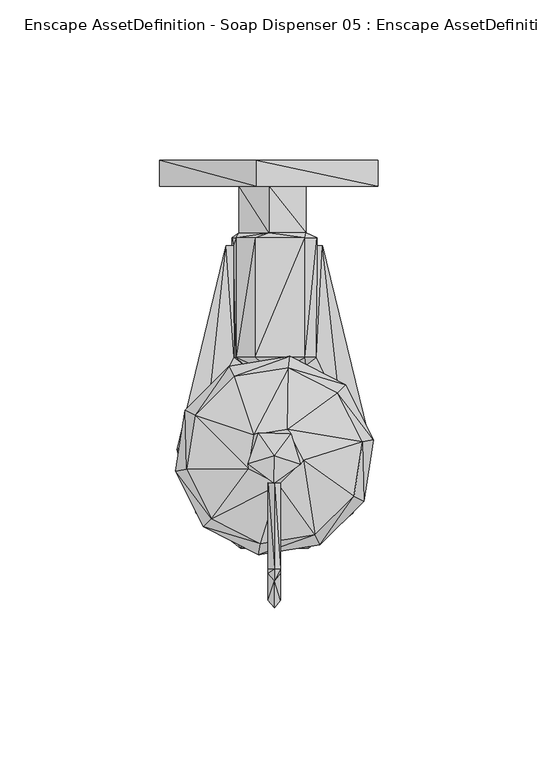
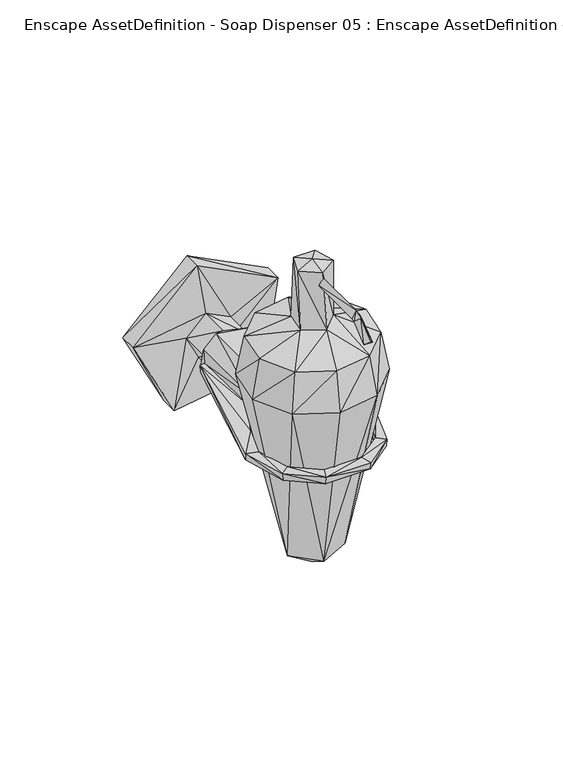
"""IFC4 building model written with IfcOpenShell, lengths in millimetres: geographic element geometry, Enscape AssetDefinition - Soap Dispenser 05 : Enscape AssetDefinition - Soap Dispenser 05."""

from ifc_helpers import new_model, si_unit, origin, place, context, project, spatial, faceted_brep, source, transform, mapped, element, save


def enscape_assetdefinition_soap_dispenser_05_enscape_c9e8c837(model_context):
    return source(origin(), model_context, "Body", "Brep", [
        faceted_brep([(30.968314, -87.4636546, 32.439895), (11.660275, -98.3123332, -53.3648916), (9.2531256, -83.1131339, -53.3648916), (27.9359631, -106.6058129, 32.439895), (-0.0035675, -92.3698246, -61.9500093), (14.2324204, -120.3093529, 32.439895), (-2.052187, -105.2992195, -53.3648916), (27.5105443, -88.0112648, 50.9202816), (24.8171035, -105.0165072, 50.9202816), (12.6431137, -117.1904951, 50.9202816), (-4.9097301, -123.3417094, 32.439895), (-22.1771766, -114.5425439, 32.439895), (-12.9338615, -94.4175497, -53.3648916), (-4.362124, -119.8839322, 50.9202816), (9.0444274, -93.8021615, 58.1274629), (1.4287716, -101.4178172, 58.1274629), (4.1552107, -84.2065588, 58.1274629), (8.1311557, -95.1693952, 86.5450352), (-0.1542931, -100.970991, 86.5450352), (-19.7022445, -112.06761, 50.9202816), (-8.166831, -96.5286046, 58.1274629), (-8.231937, -94.8839933, 86.5450352), (-30.975448, -97.2750932, 32.439895), (-27.5176801, -96.727483, 50.9202816), (-27.9439911, -78.1329423, 32.439895), (-24.8251297, -79.722248, 50.9202816), (-14.2404474, -64.4294024, 32.439895), (-5.9469724, -80.7050839, -53.3648916), (-12.6511399, -67.5482601, 50.9202816), (-6.4820931, -85.8912915, 58.1274629), (4.9017034, -61.3979399, 32.439895), (22.1691504, -70.1962113, 32.439895), (4.3540969, -64.8548156, 50.9202816), (19.6942165, -72.6711452, 50.9202816), (5.1737232, -85.4970887, 86.5450352), (-0.0035675, -92.3680365, 88.3983374), (-4.9391617, -85.3204951, 86.5450352)], [[[0, 1, 2]], [[3, 1, 0]], [[4, 2, 1]], [[5, 1, 3]], [[5, 6, 1]], [[4, 1, 6]], [[3, 7, 8]], [[7, 3, 0]], [[8, 5, 3]], [[5, 8, 9]], [[10, 6, 5]], [[9, 10, 5]], [[11, 6, 10]], [[11, 12, 6]], [[4, 6, 12]], [[10, 9, 13]], [[13, 11, 10]], [[9, 14, 15]], [[14, 9, 8]], [[13, 9, 15]], [[8, 7, 14]], [[7, 16, 14]], [[16, 17, 14]], [[18, 14, 17]], [[14, 18, 15]], [[19, 15, 20]], [[15, 19, 13]], [[21, 15, 18]], [[15, 21, 20]], [[11, 13, 19]], [[22, 19, 23]], [[19, 22, 11]], [[20, 23, 19]], [[24, 23, 25]], [[23, 24, 22]], [[20, 25, 23]], [[22, 12, 11]], [[24, 12, 22]], [[26, 27, 24]], [[24, 27, 12]], [[25, 26, 24]], [[26, 25, 28]], [[28, 25, 29]], [[25, 20, 29]], [[30, 27, 26]], [[28, 30, 26]], [[30, 2, 27]], [[4, 27, 2]], [[4, 12, 27]], [[31, 2, 30]], [[32, 31, 30]], [[30, 28, 32]], [[29, 32, 28]], [[31, 32, 33]], [[33, 32, 16]], [[32, 29, 16]], [[0, 2, 31]], [[33, 0, 31]], [[0, 33, 7]], [[16, 7, 33]], [[17, 16, 34]], [[29, 34, 16]], [[35, 17, 34]], [[34, 29, 36]], [[35, 34, 36]], [[35, 18, 17]], [[35, 21, 18]], [[35, 36, 21]], [[36, 20, 21]], [[20, 36, 29]]]),
        faceted_brep([(25.6590266, -8.2408553, -25.6581344), (25.6590266, 0.0, -25.6581344), (32.3319808, 0.0, 16.4745748), (-5.6767366, 0.0, 35.8405858), (-16.4736845, -8.2408553, -32.3319808), (-16.4736845, 0.0, -32.3319808), (32.3319808, -8.2408553, 16.4745748), (7.8680553, -8.2408553, -7.867163), (-5.0515374, -8.2408553, -9.9139996), (-10.9895915, -8.2408553, 1.7409252), (-35.8405858, -8.2408553, 5.6767366), (-35.8405858, 0.0, 5.6767366), (-1.7409252, -8.2408553, 10.9904828), (-5.6767366, -8.2408553, 35.8405858), (-1.7409252, -22.6766206, 10.9904828), (-10.9895915, -22.6766206, 1.7409252), (-5.0515374, -22.6766206, -9.9139996), (-11.9768884, -24.3301429, 6.103049), (-9.5055234, -24.3301429, -9.5046321), (-13.2772317, -24.3301429, -2.1021315), (7.8680553, -22.6766206, -7.867163), (6.103049, -24.3301429, -11.9768884), (11.9777797, -24.3301429, -6.1021573), (11.9777797, -61.5888014, -6.1021573), (6.103049, -61.5888014, -11.9768884), (13.2772317, -24.3301429, 2.1030235), (13.1175872, -26.6552418, 1.0943214), (12.5967357, -26.8773194, -2.1913184), (0.0, -67.129083, -2.2573166), (12.5869252, -61.5888014, -2.2519652), (-9.5055234, -61.5888014, -9.5046321), (-13.2005308, -61.5888014, -2.2519652), (-13.2772317, -26.8791001, -2.1021315), (-20.6164084, -77.6022822, -2.2573166), (-15.0779104, -27.1065272, -2.1913184), (-11.9340783, -70.1676682, -2.2573166), (-15.0645338, -26.8309414, 1.0943214), (-12.7706509, -26.6231354, 1.0943214), (-12.6814637, -61.5888014, 1.6588735), (-11.9768884, -61.5888014, 6.103049), (-6.103049, -24.3301429, 11.9777797), (0.0, -67.1192706, 1.4689057), (-6.103049, -61.5888014, 11.9777797), (-9.3592573, -64.1324073, 1.6669004), (-20.6244346, -77.5960386, 1.5634437), (-8.912432, -68.3348849, 1.5634437), (-25.4940316, -92.5811976, 1.5634437), (-25.4833288, -92.5811976, -2.2573166), (-30.4438975, -90.5352533, 1.1130506), (-30.2958451, -90.1472941, -2.214507), (-24.281092, -110.2223322, -2.1913184), (-24.5183278, -110.3944629, 1.0943214), (-10.4919281, -121.125415, -2.1913184), (-20.6164084, -107.5601056, -2.2573166), (-20.6244346, -107.5654626, 1.5634437), (-10.5944946, -121.4045659, 1.0943214), (10.4919281, -121.125415, -2.1913184), (-8.9088641, -116.8176904, -2.2573166), (-8.912432, -116.8266088, 1.5634437), (8.9088641, -116.8176904, -2.2573166), (8.912432, -116.8266088, 1.5634437), (20.6164084, -107.5601056, -2.2573166), (24.281092, -110.2223322, -2.1913184), (20.6244346, -107.5654626, 1.5634437), (24.5183278, -110.3944629, 1.0943214), (10.5944946, -121.4045659, 1.0943214), (25.4940316, -92.5811976, 1.5634437), (30.4438975, -90.5352533, 1.1130506), (30.2958451, -90.1472941, -2.214507), (20.6244346, -77.5960386, 1.5634437), (15.0645338, -26.8309414, 1.0943214), (15.0779104, -27.1065272, -2.1913184), (25.4833288, -92.5811976, -2.2573166), (20.6164084, -77.6022822, -2.2573166), (13.2067734, -61.5888014, 1.6588735), (9.8194601, -64.1324073, 1.6669004), (9.5055234, -61.5888014, 9.5055234), (9.9139996, -22.6766206, 5.0515374), (9.5055234, -24.3301429, 9.5055234), (8.912432, -68.3348849, 1.5634437), (11.9340783, -70.1676682, -2.2573166), (9.9139996, -8.2408553, 5.0515374)], [[[0, 1, 2]], [[3, 2, 1]], [[4, 5, 1]], [[3, 1, 5]], [[4, 1, 0]], [[6, 2, 3]], [[0, 2, 6]], [[7, 0, 6]], [[8, 4, 0]], [[8, 0, 7]], [[9, 10, 4]], [[9, 4, 8]], [[10, 5, 4]], [[10, 11, 5]], [[3, 5, 11]], [[12, 13, 10]], [[13, 11, 10]], [[12, 10, 9]], [[14, 12, 9]], [[15, 9, 8]], [[14, 9, 15]], [[16, 8, 7]], [[15, 8, 16]], [[14, 15, 17]], [[15, 16, 18]], [[17, 15, 19]], [[15, 18, 19]], [[16, 20, 21]], [[16, 7, 20]], [[16, 21, 18]], [[21, 20, 22]], [[21, 22, 23]], [[18, 21, 24]], [[21, 23, 24]], [[22, 25, 26]], [[22, 27, 23]], [[20, 25, 22]], [[22, 26, 27]], [[28, 23, 29]], [[28, 24, 23]], [[23, 27, 29]], [[30, 24, 28]], [[18, 24, 30]], [[28, 31, 30]], [[31, 18, 30]], [[19, 18, 32]], [[32, 18, 31]], [[31, 33, 34]], [[31, 35, 33]], [[28, 35, 31]], [[31, 34, 32]], [[34, 36, 32]], [[37, 19, 32]], [[32, 36, 37]], [[17, 19, 37]], [[37, 36, 38]], [[17, 37, 39]], [[39, 37, 38]], [[40, 17, 39]], [[14, 17, 40]], [[41, 42, 39]], [[41, 39, 43]], [[40, 39, 42]], [[43, 39, 38]], [[44, 43, 38]], [[38, 36, 44]], [[45, 43, 44]], [[43, 45, 41]], [[44, 33, 45]], [[46, 47, 44]], [[36, 48, 44]], [[44, 48, 46]], [[44, 47, 33]], [[45, 35, 28]], [[45, 28, 41]], [[45, 33, 35]], [[49, 33, 47]], [[49, 34, 33]], [[50, 49, 47]], [[49, 48, 36]], [[50, 48, 49]], [[49, 36, 34]], [[46, 48, 51]], [[51, 48, 50]], [[52, 50, 53]], [[50, 47, 53]], [[52, 51, 50]], [[54, 51, 55]], [[55, 51, 52]], [[46, 51, 54]], [[56, 52, 57]], [[52, 53, 57]], [[56, 55, 52]], [[58, 57, 54]], [[59, 57, 58]], [[56, 57, 59]], [[54, 57, 53]], [[54, 53, 46]], [[54, 55, 58]], [[46, 53, 47]], [[60, 58, 55]], [[59, 58, 60]], [[61, 62, 59]], [[63, 61, 59]], [[59, 62, 56]], [[63, 59, 60]], [[63, 60, 64]], [[60, 55, 65]], [[64, 60, 65]], [[66, 63, 67]], [[67, 63, 64]], [[66, 61, 63]], [[67, 64, 62]], [[64, 65, 56]], [[64, 56, 62]], [[65, 55, 56]], [[61, 68, 62]], [[67, 62, 68]], [[69, 66, 67]], [[70, 69, 67]], [[70, 67, 71]], [[71, 67, 68]], [[66, 72, 61]], [[69, 72, 66]], [[72, 68, 61]], [[69, 73, 72]], [[72, 73, 68]], [[71, 68, 73]], [[26, 70, 71]], [[27, 71, 29]], [[26, 71, 27]], [[29, 71, 73]], [[74, 69, 70]], [[74, 70, 26]], [[26, 25, 74]], [[75, 74, 76]], [[75, 69, 74]], [[25, 76, 74]], [[20, 77, 25]], [[25, 77, 78]], [[25, 78, 76]], [[41, 76, 42]], [[75, 76, 41]], [[78, 42, 76]], [[69, 75, 79]], [[79, 75, 41]], [[79, 80, 69]], [[69, 80, 73]], [[41, 80, 79]], [[41, 28, 80]], [[80, 29, 73]], [[80, 28, 29]], [[77, 14, 78]], [[78, 40, 42]], [[78, 14, 40]], [[77, 12, 14]], [[77, 81, 12]], [[81, 13, 12]], [[20, 81, 77]], [[20, 7, 81]], [[81, 6, 13]], [[7, 6, 81]], [[13, 3, 11]], [[6, 3, 13]]]),
        faceted_brep([(1.930893, -127.8331578, 80.8237046), (-1.930893, -100.939773, 80.8237046), (1.930893, -101.0066718, 80.8237046), (-1.930893, -127.7653575, 80.8237046), (0.0, -127.7992576, 84.1682032), (0.0, -100.9736657, 84.1682032), (1.930893, -129.1763037, 80.2127793), (-1.930893, -129.1281432, 80.2600458), (0.0, -131.5165609, 82.6011896), (-1.930893, -137.6106888, 73.801145), (1.930893, -137.6588494, 73.753871), (0.0, -140.0000006, 76.1422962)], [[[0, 1, 2]], [[1, 0, 3]], [[4, 1, 3]], [[1, 4, 5]], [[0, 5, 4]], [[5, 0, 2]], [[6, 3, 0]], [[3, 6, 7]], [[7, 4, 3]], [[4, 7, 8]], [[8, 0, 4]], [[0, 8, 6]], [[6, 9, 7]], [[9, 6, 10]], [[8, 10, 6]], [[10, 8, 11]], [[8, 9, 11]], [[9, 8, 7]], [[9, 10, 11]], [[2, 1, 5]]]),
    ])


if __name__ == "__main__":
    model = new_model("IFC4")
    model_context = context("Model", 3, world=origin())
    ifc_project = project(units=[si_unit("LENGTHUNIT", "METRE", prefix="MILLI")], contexts=[model_context])
    site = spatial("IfcSite", under=ifc_project)
    building = spatial("IfcBuilding", under=site)
    placement = place(None, origin())
    enscape_assetdefinition_soap_dispenser_05_enscape_shape = enscape_assetdefinition_soap_dispenser_05_enscape_c9e8c837(model_context)
    element("IfcGeographicElement", 1, ObjectType="Enscape AssetDefinition - Soap Dispenser 05 : Enscape AssetDefinition - Soap Dispenser 05", at=placement, inside=building, context=model_context, shape_type="MappedRepresentation", body=[
        mapped(enscape_assetdefinition_soap_dispenser_05_enscape_shape, transform((0.0, 0.0, 0.0), x_axis=(1.0, 0.0, 0.0), y_axis=(0.0, 1.0, 0.0), z_axis=(0.0, 0.0, 1.0))),
    ])
    save(model, "model.ifc")
